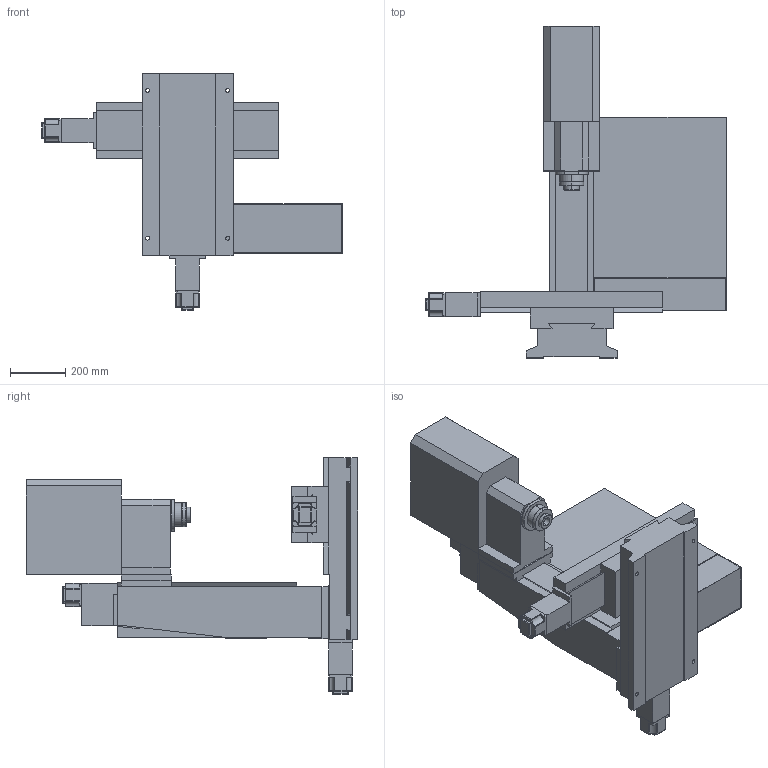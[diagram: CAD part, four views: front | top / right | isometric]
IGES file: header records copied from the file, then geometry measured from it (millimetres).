
Start section: SolidWorks IGES file using analytic representation for surfaces
Global section: file name: R:\Drawings\Files saved as other types\Solid_Models\MODELS FOR PUBLIC\32084_770_PCNC_MACHINE.IGS; native system: SolidWorks 2012; preprocessor: SolidWorks 2012; author: rtooley; date: 140702.091525; units: millimetre
Bounding box: 1088 x 1201 x 856 mm (x, y, z)
Surface area: 4750952.3 mm2 (no closed solid volume)
Topology: 0 solids, 0 shells, 468 faces, 4353 edges, 4350 vertices
Faces by surface type: bspline 320, revolution 148
